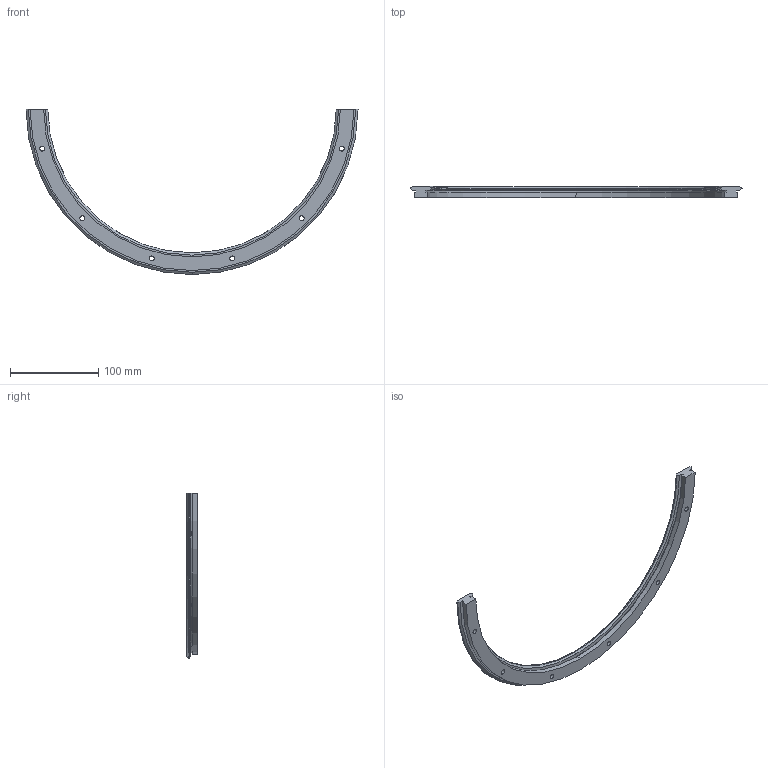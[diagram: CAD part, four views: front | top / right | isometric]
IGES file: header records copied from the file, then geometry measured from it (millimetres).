
Start section: 3D InterOp IGES (v. 2020 1.0.1), Spatial Corp. Copyright (c) 1999-2017.
Global section: file name: r25_351_r180.igs; native system: Spatial Corp.; preprocessor: 3D InterOp ACIS/IGES; author: TraceParts; organization: TraceParts S.A.; date: 20210506.104424; units: millimetre
Bounding box: 375.6 x 12.25 x 186.81 mm (x, y, z)
Surface area: 43772.3 mm2 (no closed solid volume)
Topology: 0 solids, 0 shells, 62 faces, 312 edges, 312 vertices
Faces by surface type: revolution 48, extrusion 14
